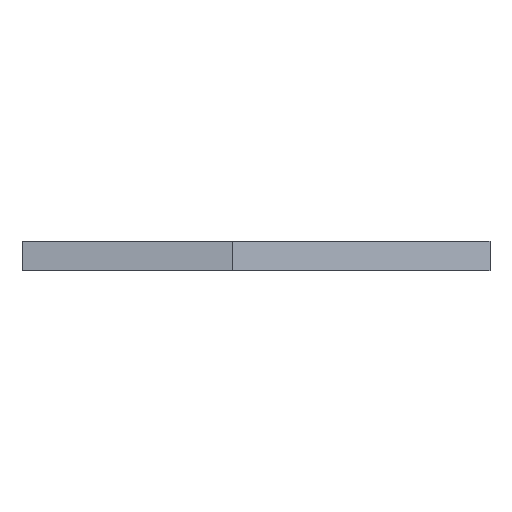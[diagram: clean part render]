
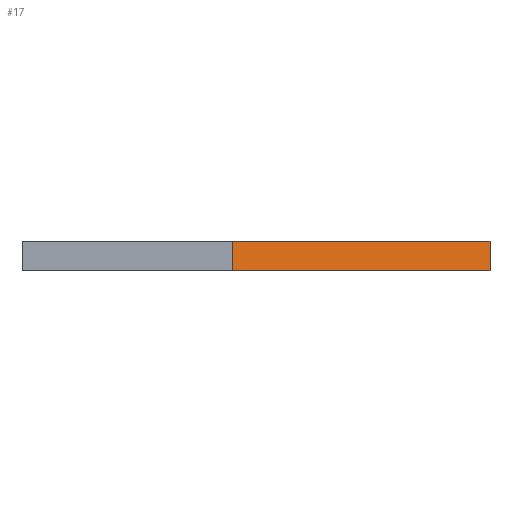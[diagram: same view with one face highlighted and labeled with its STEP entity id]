
A CAD part, front view. The second image highlights one B-rep face of the part: STEP entity #17.
In plain terms, the highlighted planar face has unit normal (0.366, -0.931, 0).
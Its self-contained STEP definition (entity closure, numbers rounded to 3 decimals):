
#17 = ADVANCED_FACE('',(#18),#32,.F.);
#18 = FACE_BOUND('',#19,.T.);
#19 = EDGE_LOOP('',(#20,#55,#83,#111));
#20 = ORIENTED_EDGE('',*,*,#21,.T.);
#21 = EDGE_CURVE('',#22,#24,#26,.T.);
#22 = VERTEX_POINT('',#23);
#23 = CARTESIAN_POINT('',(180.,-180.,0.));
#24 = VERTEX_POINT('',#25);
#25 = CARTESIAN_POINT('',(180.,-180.,35.));
#26 = SURFACE_CURVE('',#27,(#31,#43),.PCURVE_S1.);
#27 = LINE('',#28,#29);
#28 = CARTESIAN_POINT('',(180.,-180.,0.));
#29 = VECTOR('',#30,1.);
#30 = DIRECTION('',(-0.,-0.,1.));
#31 = PCURVE('',#32,#37);
#32 = PLANE('',#33);
#33 = AXIS2_PLACEMENT_3D('',#34,#35,#36);
#34 = CARTESIAN_POINT('',(180.,-180.,0.));
#35 = DIRECTION('',(-0.366,0.931,-0.));
#36 = DIRECTION('',(0.931,0.366,0.));
#37 = DEFINITIONAL_REPRESENTATION('',(#38),#42);
#38 = LINE('',#39,#40);
#39 = CARTESIAN_POINT('',(-0.,-0.));
#40 = VECTOR('',#41,1.);
#41 = DIRECTION('',(-0.,-1.));
#42 = ( GEOMETRIC_REPRESENTATION_CONTEXT(2) 
PARAMETRIC_REPRESENTATION_CONTEXT() REPRESENTATION_CONTEXT('2D SPACE',''
  ) );
#43 = PCURVE('',#44,#49);
#44 = PLANE('',#45);
#45 = AXIS2_PLACEMENT_3D('',#46,#47,#48);
#46 = CARTESIAN_POINT('',(180.,390.,0.));
#47 = DIRECTION('',(-1.,-0.,-0.));
#48 = DIRECTION('',(0.,1.,0.));
#49 = DEFINITIONAL_REPRESENTATION('',(#50),#54);
#50 = LINE('',#51,#52);
#51 = CARTESIAN_POINT('',(-570.,0.));
#52 = VECTOR('',#53,1.);
#53 = DIRECTION('',(-0.,-1.));
#54 = ( GEOMETRIC_REPRESENTATION_CONTEXT(2) 
PARAMETRIC_REPRESENTATION_CONTEXT() REPRESENTATION_CONTEXT('2D SPACE',''
  ) );
#55 = ORIENTED_EDGE('',*,*,#56,.T.);
#56 = EDGE_CURVE('',#24,#57,#59,.T.);
#57 = VERTEX_POINT('',#58);
#58 = CARTESIAN_POINT('',(-125.,-300.,35.));
#59 = SURFACE_CURVE('',#60,(#64,#71),.PCURVE_S1.);
#60 = LINE('',#61,#62);
#61 = CARTESIAN_POINT('',(180.,-180.,35.));
#62 = VECTOR('',#63,1.);
#63 = DIRECTION('',(-0.931,-0.366,-0.));
#64 = PCURVE('',#32,#65);
#65 = DEFINITIONAL_REPRESENTATION('',(#66),#70);
#66 = LINE('',#67,#68);
#67 = CARTESIAN_POINT('',(-0.,-35.));
#68 = VECTOR('',#69,1.);
#69 = DIRECTION('',(-1.,0.));
#70 = ( GEOMETRIC_REPRESENTATION_CONTEXT(2) 
PARAMETRIC_REPRESENTATION_CONTEXT() REPRESENTATION_CONTEXT('2D SPACE',''
  ) );
#71 = PCURVE('',#72,#77);
#72 = PLANE('',#73);
#73 = AXIS2_PLACEMENT_3D('',#74,#75,#76);
#74 = CARTESIAN_POINT('',(-79.584,37.809,35.));
#75 = DIRECTION('',(-0.,-0.,1.));
#76 = DIRECTION('',(1.,0.,0.));
#77 = DEFINITIONAL_REPRESENTATION('',(#78),#82);
#78 = LINE('',#79,#80);
#79 = CARTESIAN_POINT('',(259.584,-217.809));
#80 = VECTOR('',#81,1.);
#81 = DIRECTION('',(-0.931,-0.366));
#82 = ( GEOMETRIC_REPRESENTATION_CONTEXT(2) 
PARAMETRIC_REPRESENTATION_CONTEXT() REPRESENTATION_CONTEXT('2D SPACE',''
  ) );
#83 = ORIENTED_EDGE('',*,*,#84,.F.);
#84 = EDGE_CURVE('',#85,#57,#87,.T.);
#85 = VERTEX_POINT('',#86);
#86 = CARTESIAN_POINT('',(-125.,-300.,0.));
#87 = SURFACE_CURVE('',#88,(#92,#99),.PCURVE_S1.);
#88 = LINE('',#89,#90);
#89 = CARTESIAN_POINT('',(-125.,-300.,0.));
#90 = VECTOR('',#91,1.);
#91 = DIRECTION('',(-0.,-0.,1.));
#92 = PCURVE('',#32,#93);
#93 = DEFINITIONAL_REPRESENTATION('',(#94),#98);
#94 = LINE('',#95,#96);
#95 = CARTESIAN_POINT('',(-327.758,0.));
#96 = VECTOR('',#97,1.);
#97 = DIRECTION('',(-0.,-1.));
#98 = ( GEOMETRIC_REPRESENTATION_CONTEXT(2) 
PARAMETRIC_REPRESENTATION_CONTEXT() REPRESENTATION_CONTEXT('2D SPACE',''
  ) );
#99 = PCURVE('',#100,#105);
#100 = PLANE('',#101);
#101 = AXIS2_PLACEMENT_3D('',#102,#103,#104);
#102 = CARTESIAN_POINT('',(-125.,-300.,0.));
#103 = DIRECTION('',(-0.,1.,-0.));
#104 = DIRECTION('',(1.,0.,0.));
#105 = DEFINITIONAL_REPRESENTATION('',(#106),#110);
#106 = LINE('',#107,#108);
#107 = CARTESIAN_POINT('',(-0.,-0.));
#108 = VECTOR('',#109,1.);
#109 = DIRECTION('',(-0.,-1.));
#110 = ( GEOMETRIC_REPRESENTATION_CONTEXT(2) 
PARAMETRIC_REPRESENTATION_CONTEXT() REPRESENTATION_CONTEXT('2D SPACE',''
  ) );
#111 = ORIENTED_EDGE('',*,*,#112,.F.);
#112 = EDGE_CURVE('',#22,#85,#113,.T.);
#113 = SURFACE_CURVE('',#114,(#118,#125),.PCURVE_S1.);
#114 = LINE('',#115,#116);
#115 = CARTESIAN_POINT('',(180.,-180.,0.));
#116 = VECTOR('',#117,1.);
#117 = DIRECTION('',(-0.931,-0.366,-0.));
#118 = PCURVE('',#32,#119);
#119 = DEFINITIONAL_REPRESENTATION('',(#120),#124);
#120 = LINE('',#121,#122);
#121 = CARTESIAN_POINT('',(-0.,-0.));
#122 = VECTOR('',#123,1.);
#123 = DIRECTION('',(-1.,0.));
#124 = ( GEOMETRIC_REPRESENTATION_CONTEXT(2) 
PARAMETRIC_REPRESENTATION_CONTEXT() REPRESENTATION_CONTEXT('2D SPACE',''
  ) );
#125 = PCURVE('',#126,#131);
#126 = PLANE('',#127);
#127 = AXIS2_PLACEMENT_3D('',#128,#129,#130);
#128 = CARTESIAN_POINT('',(-79.584,37.809,0.));
#129 = DIRECTION('',(-0.,-0.,1.));
#130 = DIRECTION('',(1.,0.,0.));
#131 = DEFINITIONAL_REPRESENTATION('',(#132),#136);
#132 = LINE('',#133,#134);
#133 = CARTESIAN_POINT('',(259.584,-217.809));
#134 = VECTOR('',#135,1.);
#135 = DIRECTION('',(-0.931,-0.366));
#136 = ( GEOMETRIC_REPRESENTATION_CONTEXT(2) 
PARAMETRIC_REPRESENTATION_CONTEXT() REPRESENTATION_CONTEXT('2D SPACE',''
  ) );
